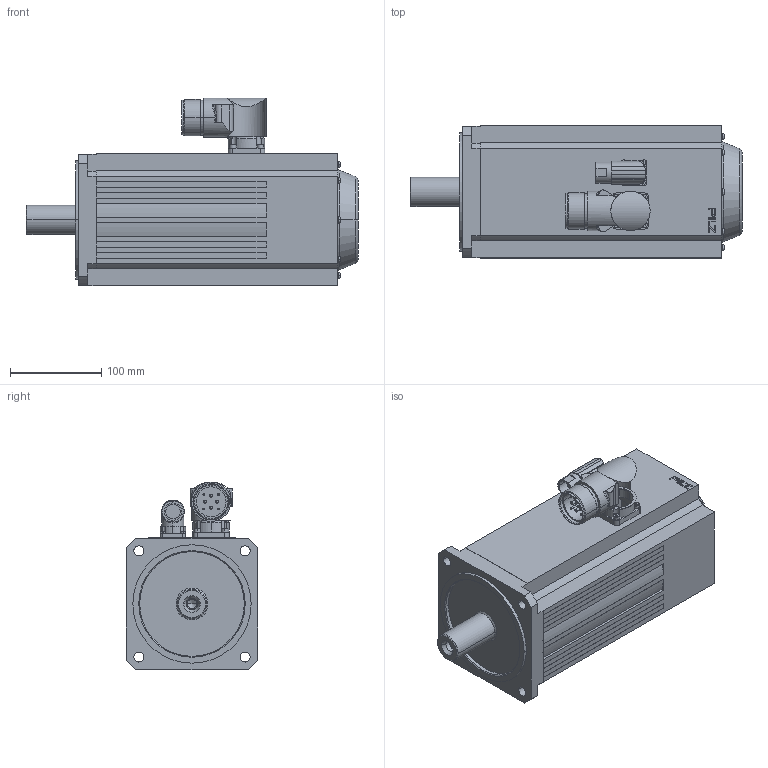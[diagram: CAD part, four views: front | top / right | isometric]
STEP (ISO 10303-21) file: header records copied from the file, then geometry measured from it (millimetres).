
FILE_DESCRIPTION((''),'2;1');
FILE_NAME('2023500','2016-11-04T',('smayer'),(''),'PRO/ENGINEER BY PARAMETRIC TECHNOLOGY CORPORATION, 2015110','PRO/ENGINEER BY PARAMETRIC TECHNOLOGY CORPORATION, 2015110','');
FILE_SCHEMA(('AUTOMOTIVE_DESIGN { 1 0 10303 214 1 1 1 1 }'));
Length unit declared in the file: millimetre
Products named in the file (1): 2023500
Bounding box: 364.7 x 145 x 206.38 mm (x, y, z)
Surface area: 250978.4 mm2 (no closed solid volume)
Topology: 0 solids, 17 shells, 494 faces, 1405 edges, 937 vertices
Faces by surface type: plane 288, cylinder 138, cone 36, bspline 20, torus 12
Entity records: 25278 total; most frequent: CARTESIAN_POINT 4592, DIRECTION 2628, ORIENTED_EDGE 2570, PRESENTATION_STYLE_ASSIGNMENT 1899, STYLED_ITEM 1405, CURVE_STYLE 1404, EDGE_CURVE 1398, VERTEX_POINT 927
